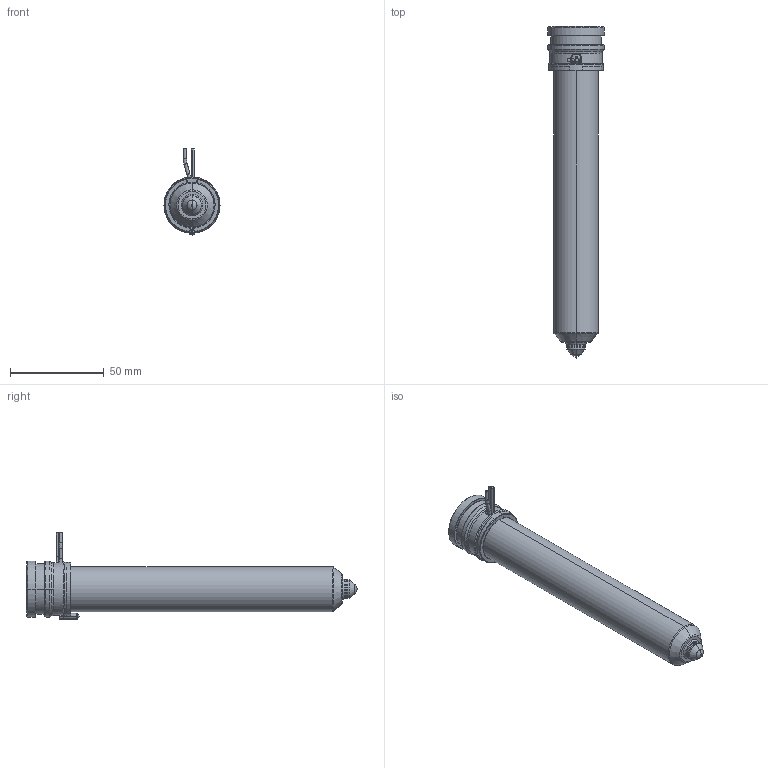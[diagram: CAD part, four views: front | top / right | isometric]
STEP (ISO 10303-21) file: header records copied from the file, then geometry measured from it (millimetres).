
FILE_DESCRIPTION((''),'2;1');
FILE_NAME('MPN-10-29-VX10-156-A','2026-02-05T12:41:21',('UPTIO'),('Thermoplay S.p.A.'),'CREO PARAMETRIC BY PTC INC, 2023494','CREO PARAMETRIC BY PTC INC, 2023494','');
FILE_SCHEMA(('CONFIG_CONTROL_DESIGN','SHAPE_APPEARANCE_LAYERS_GROUPS'));
Length unit declared in the file: millimetre
Products named in the file (1): MPN-10-29-VX10-156-A
Bounding box: 30 x 177.5 x 46 mm (x, y, z)
Volume: 54834.3 mm3; surface area: 55564.5 mm2
Topology: 2 solids, 3 shells, 557 faces, 1459 edges, 901 vertices
Faces by surface type: cylinder 182, plane 144, bspline 76, torus 72, cone 70, sphere 9, extrusion 4
Entity records: 30728 total; most frequent: CARTESIAN_POINT 14221, ORIENTED_EDGE 2906, DIRECTION 2711, EDGE_CURVE 1453, AXIS2_PLACEMENT_3D 1078, VERTEX_POINT 901, CIRCLE 600, EDGE_LOOP 586
